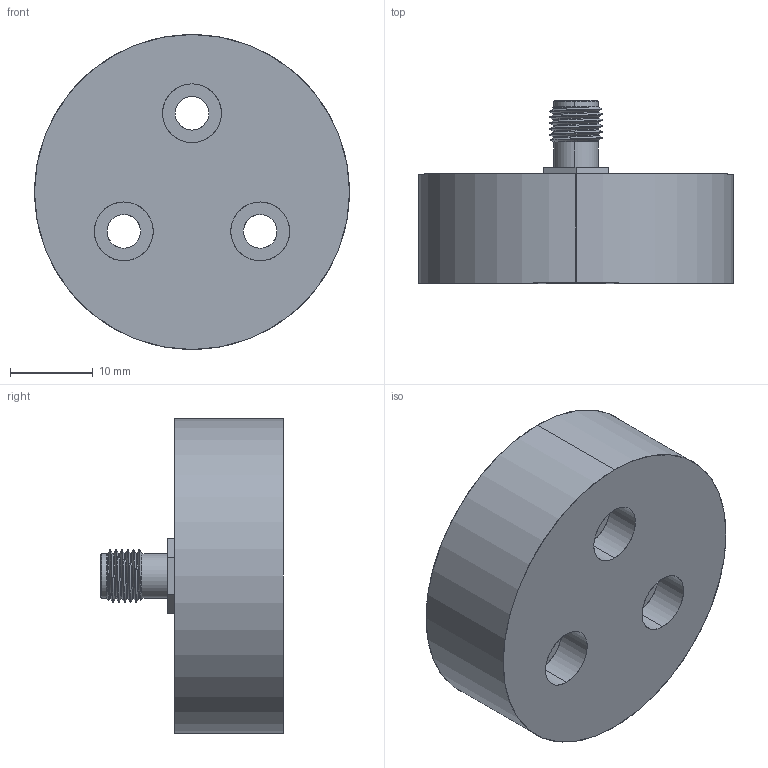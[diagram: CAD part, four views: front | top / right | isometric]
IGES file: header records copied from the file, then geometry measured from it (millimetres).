
Start section: SolidWorks IGES file using analytic representation for surfaces
Global section: file name: C:\Documents and Settings\Administrator\My Documents\EDI\3D\finished sensors\15U1.IGS; native system: SolidWorks 2008; preprocessor: SolidWorks 2008; author: Administrator; date: 100305.113743; units: millimetre
Bounding box: 38.1 x 22.11 x 38.1 mm (x, y, z)
Surface area: 4973.5 mm2 (no closed solid volume)
Topology: 0 solids, 0 shells, 280 faces, 2694 edges, 2694 vertices
Faces by surface type: revolution 196, bspline 84
